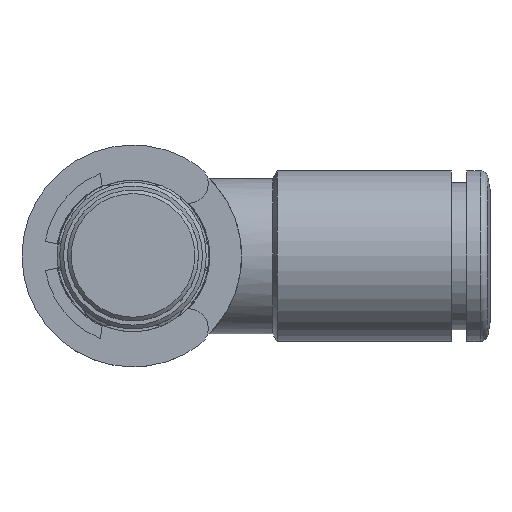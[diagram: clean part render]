
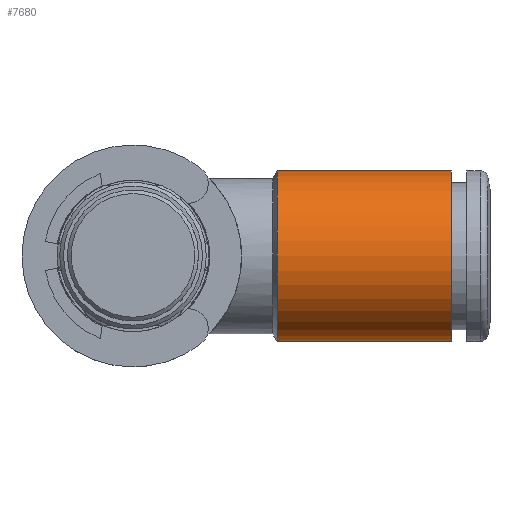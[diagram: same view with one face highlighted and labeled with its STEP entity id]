
A CAD part, top view. The second image highlights one B-rep face of the part: STEP entity #7680.
In plain terms, the highlighted cylindrical face has radius 5.5 mm (diameter 11 mm), a full revolution.
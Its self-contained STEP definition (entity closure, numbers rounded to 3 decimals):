
#7680=ADVANCED_FACE('', (#7690,#7700), #7710, .T.);
#22210=AXIS2_PLACEMENT_3D('Ax2Pl3d', #22220, #22230, #22240);
#22930=AXIS2_PLACEMENT_3D('Ax2Pl3d', #22940, #22950, #22960);
#22970=AXIS2_PLACEMENT_3D('Ax2Pl3d', #22980, #22990, #23000);
#22220=CARTESIAN_POINT('HicPkt', (41.49,14.304,
25.604));
#45230=CARTESIAN_POINT('', (41.49,14.304,20.104));
#22940=CARTESIAN_POINT('HicPkt', (30.279,14.304,
25.604));
#45320=CARTESIAN_POINT('', (30.279,14.304,20.104));
#22980=CARTESIAN_POINT('HicPkt', (41.49,14.304,
25.604));
#46690=CIRCLE('Circle', #22210, 5.5);
#46770=CIRCLE('Circle', #22930, 5.5);
#7710=CYLINDRICAL_SURFACE('Zyl', #22970, 5.5);
#22230=DIRECTION('Axis', (1.,0.,0.));
#22240=DIRECTION('RefDirection', (0.,0.,-1.));
#22950=DIRECTION('Axis', (1.,0.,0.));
#22960=DIRECTION('RefDirection', (0.,0.,-1.));
#22990=DIRECTION('Axis', (-1.,0.,
0.));
#23000=DIRECTION('RefDirection', (0.,
0.,-1.));
#66670=EDGE_CURVE('', #66680, #66680, #46690, .T.);
#66860=EDGE_CURVE('', #66870, #66870, #46770, .T.);
#77440=EDGE_LOOP('Edge_loop', (#77450));
#77460=EDGE_LOOP('Edge_loop', (#77470));
#7700=FACE_BOUND('', #77460, .T.);
#7690=FACE_OUTER_BOUND('Face_outer_bound', #77440, .T.);
#77450=ORIENTED_EDGE('', *, *, #66860, .T.);
#77470=ORIENTED_EDGE('', *, *, #66670, .F.);
#66680=VERTEX_POINT('', #45230);
#66870=VERTEX_POINT('', #45320);
